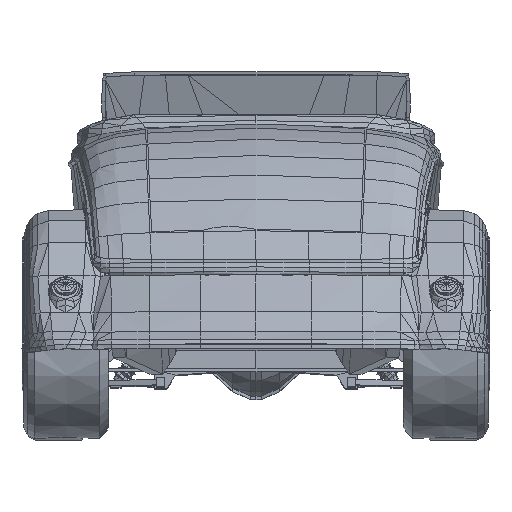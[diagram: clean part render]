
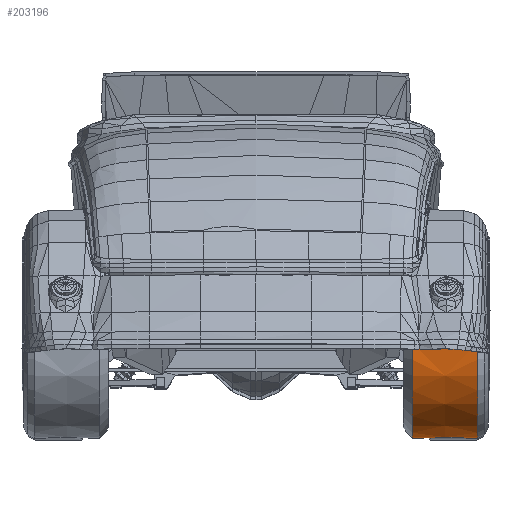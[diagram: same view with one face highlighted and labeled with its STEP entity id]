
A CAD part, left-side view. The second image highlights one B-rep face of the part: STEP entity #203196.
In plain terms, the highlighted conical face has half-angle 0 degrees and reference radius 13.5 mm.
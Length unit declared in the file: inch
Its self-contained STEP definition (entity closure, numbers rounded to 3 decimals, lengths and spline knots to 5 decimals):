
#35622 = CONICAL_SURFACE ( 'NONE', #35623, 0.53149, 0. ) ;
#35623 = AXIS2_PLACEMENT_3D ( 'NONE', #48785, #48789, #48782 ) ;
#48782 = DIRECTION ( 'NONE',  ( -1., 0., 0. ) ) ;
#48785 = CARTESIAN_POINT ( 'NONE',  ( -4.81538, -1.2296, 0.53097 ) ) ;
#48787 = FACE_OUTER_BOUND ( 'NONE', #213375, .T. ) ;
#48789 = DIRECTION ( 'NONE',  ( 0., 1., 0. ) ) ;
#55478 = EDGE_CURVE ( 'NONE', #127885, #127897, #167481, .T. ) ;
#55480 = EDGE_CURVE ( 'NONE', #127885, #127908, #180717, .T. ) ;
#55482 = EDGE_CURVE ( 'NONE', #127908, #127912, #167493, .T. ) ;
#55484 = EDGE_CURVE ( 'NONE', #127897, #127912, #180721, .T. ) ;
#59309 = ORIENTED_EDGE ( 'NONE', *, *, #55478, .F. ) ;
#59310 = ORIENTED_EDGE ( 'NONE', *, *, #55480, .T. ) ;
#59311 = ORIENTED_EDGE ( 'NONE', *, *, #55482, .T. ) ;
#59313 = ORIENTED_EDGE ( 'NONE', *, *, #55484, .F. ) ;
#127885 = VERTEX_POINT ( 'NONE', #166791 ) ;
#127897 = VERTEX_POINT ( 'NONE', #166813 ) ;
#127908 = VERTEX_POINT ( 'NONE', #166833 ) ;
#127912 = VERTEX_POINT ( 'NONE', #166838 ) ;
#166791 = CARTESIAN_POINT ( 'NONE',  ( -4.28389, -1.2296, 0.53097 ) ) ;
#166813 = CARTESIAN_POINT ( 'NONE',  ( -5.34688, -1.2296, 0.53097 ) ) ;
#166833 = CARTESIAN_POINT ( 'NONE',  ( -4.28388, -0.86543, 0.53096 ) ) ;
#166838 = CARTESIAN_POINT ( 'NONE',  ( -5.34688, -0.86542, 0.53096 ) ) ;
#167481 = CIRCLE ( 'NONE', #167496, 0.53149 ) ;
#167489 = VECTOR ( 'NONE', #180722, 39.37008 ) ;
#167493 = CIRCLE ( 'NONE', #167507, 0.5315 ) ;
#167496 = AXIS2_PLACEMENT_3D ( 'NONE', #180718, #180719, #180720 ) ;
#167504 = VECTOR ( 'NONE', #180727, 39.37008 ) ;
#167507 = AXIS2_PLACEMENT_3D ( 'NONE', #180723, #180724, #180725 ) ;
#180714 = CARTESIAN_POINT ( 'NONE',  ( -4.28389, -1.2296, 0.53097 ) ) ;
#180716 = CARTESIAN_POINT ( 'NONE',  ( -5.34688, -1.2296, 0.53097 ) ) ;
#180717 = LINE ( 'NONE', #180714, #167489 ) ;
#180718 = CARTESIAN_POINT ( 'NONE',  ( -4.81538, -1.2296, 0.53097 ) ) ;
#180719 = DIRECTION ( 'NONE',  ( 0., 1., 0. ) ) ;
#180720 = DIRECTION ( 'NONE',  ( -1., 0., 0. ) ) ;
#180721 = LINE ( 'NONE', #180716, #167504 ) ;
#180722 = DIRECTION ( 'NONE',  ( 0., 1., 0. ) ) ;
#180723 = CARTESIAN_POINT ( 'NONE',  ( -4.81538, -0.86543, 0.53096 ) ) ;
#180724 = DIRECTION ( 'NONE',  ( 0., 1., 0. ) ) ;
#180725 = DIRECTION ( 'NONE',  ( -1., 0., 0. ) ) ;
#180727 = DIRECTION ( 'NONE',  ( 0., 1., 0. ) ) ;
#203196 = ADVANCED_FACE ( 'NONE', ( #48787 ), #35622, .F. ) ;
#213375 = EDGE_LOOP ( 'NONE', ( #59309, #59310, #59311, #59313 ) ) ;
